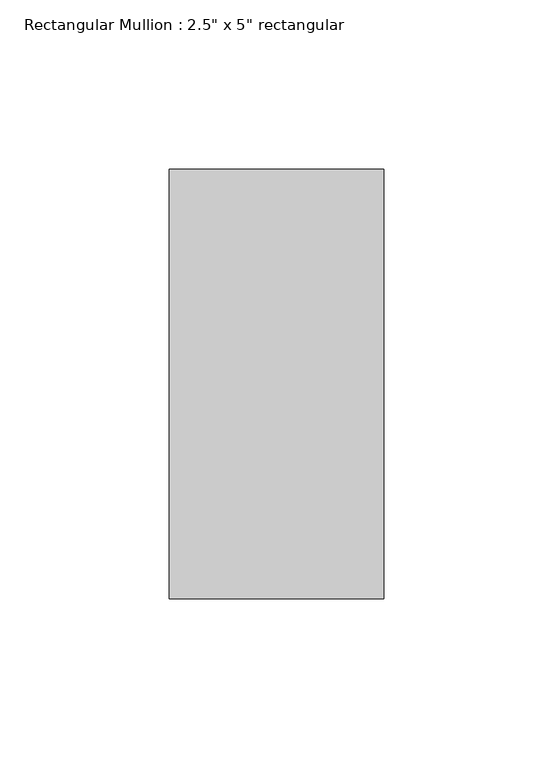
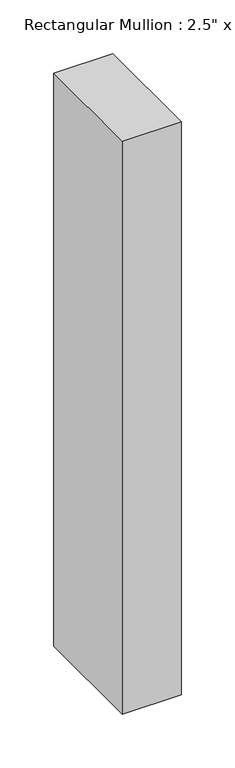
"""IFC4 building model written with IfcOpenShell, lengths in millimetres: member geometry."""

import ifcopenshell
import ifcopenshell.guid

model = None  # the IFC model being written
_history = None  # IfcOwnerHistory: only IFC2X3 demands one
_inside = {}  # id of a spatial element -> (the spatial element, [elements in it])
_under = {}  # id of a project, library or spatial element -> (it, [spatial elements below it])
_declared = {}  # id of a project -> (the project, [libraries it declares])
_typed = {}  # id of a type object -> (the type object, [elements of that type])
_made_of = {}  # id of a material, layer set ... -> (it, [elements and type objects made of it])


def new_model(schema):
    """Start an empty IFC model of exactly this schema.

    Asked for "IFC4X3", IfcOpenShell would pick the latest addendum, in which some entities
    have other attributes; the version numbers below select the first issue.
    IFC2X3 requires an IfcOwnerHistory on every rooted entity: one is made here for all.
    """
    global model, _history
    if schema == "IFC4X3":
        model = ifcopenshell.file(schema_version=(4, 3, 0, 0))
    else:
        model = ifcopenshell.file(schema=schema)
    _inside.clear()
    _under.clear()
    _declared.clear()
    _typed.clear()
    _made_of.clear()
    _history = None
    if model.schema == "IFC2X3":
        org = make("IfcOrganization", Name="unknown")
        user = make(
            "IfcPersonAndOrganization",
            ThePerson=make("IfcPerson", FamilyName="unknown"),
            TheOrganization=org,
        )
        app = make(
            "IfcApplication",
            ApplicationDeveloper=org,
            Version="unknown",
            ApplicationFullName="unknown",
            ApplicationIdentifier="unknown",
        )
        _history = make(
            "IfcOwnerHistory",
            OwningUser=user,
            OwningApplication=app,
            ChangeAction="ADDED",
            CreationDate=0,
        )
    return model


def make(cls, **values):
    """One entity of the class cls with the attributes given. An attribute that is None is left unset."""
    return model.create_entity(
        cls, **{name: value for name, value in values.items() if value is not None}
    )


def rooted(cls, **values):
    """An entity with a GlobalId (a new one), such as an element, a storey or a relation."""
    return make(cls, GlobalId=ifcopenshell.guid.new(), OwnerHistory=_history, **values)


def si_unit(unit_type, name, prefix=None):
    """IfcSIUnit, for example si_unit("LENGTHUNIT", "METRE", prefix="MILLI")."""
    return make("IfcSIUnit", UnitType=unit_type, Prefix=prefix, Name=name)


def assignment(units):
    """IfcUnitAssignment: the units of a project."""
    return None if units is None else make("IfcUnitAssignment", Units=units)


def point(xyz):
    """IfcCartesianPoint."""
    return None if xyz is None else make("IfcCartesianPoint", Coordinates=xyz)


def direction(xyz):
    """IfcDirection."""
    return None if xyz is None else make("IfcDirection", DirectionRatios=xyz)


def frame(location, z_axis=None, x_axis=None):
    """IfcAxis2Placement3D, a coordinate frame: its origin and axes. An axis left out is left unset."""
    return make(
        "IfcAxis2Placement3D",
        Location=point(location),
        Axis=direction(z_axis),
        RefDirection=direction(x_axis),
    )


def origin():
    """The frame at (0, 0, 0) with its axes left unset."""
    return frame((0.0, 0.0, 0.0))


def place(relative_to, where):
    """IfcLocalPlacement: puts the frame where relative to a parent placement (None: the world)."""
    return make(
        "IfcLocalPlacement", PlacementRelTo=relative_to, RelativePlacement=where
    )


def context(
    kind, dimensions, precision=None, world=None, true_north=None, identifier=None
):
    """IfcGeometricRepresentationContext, for example the 3D "Model" context."""
    return make(
        "IfcGeometricRepresentationContext",
        ContextIdentifier=identifier,
        ContextType=kind,
        CoordinateSpaceDimension=dimensions,
        Precision=precision,
        WorldCoordinateSystem=world,
        TrueNorth=true_north,
    )


def project(units=None, contexts=None):
    """IfcProject with its units and contexts."""
    return rooted(
        "IfcProject",
        Name="project",
        RepresentationContexts=contexts,
        UnitsInContext=assignment(units),
    )


def spatial(cls, under=None, at=None, **own):
    """A site, building, storey or space (cls), placed at a placement, below another one or the project."""
    s = rooted(cls, ObjectPlacement=at, **own)
    if under is not None:
        _under.setdefault(under.id(), (under, []))[1].append(s)
    return s


def polyline(points):
    """IfcPolyline through the points."""
    return make("IfcPolyline", Points=[point(p) for p in points])


def outline(outer, holes=None, kind="AREA"):
    """IfcArbitraryClosedProfileDef: a profile drawn as a closed curve; with holes, ...WithVoids."""
    if holes is None:
        return make("IfcArbitraryClosedProfileDef", ProfileType=kind, OuterCurve=outer)
    return make(
        "IfcArbitraryProfileDefWithVoids",
        ProfileType=kind,
        OuterCurve=outer,
        InnerCurves=holes,
    )


def extrude(swept, where, along, depth):
    """IfcExtrudedAreaSolid: the profile swept, set in the frame where, extruded along a direction by depth."""
    return make(
        "IfcExtrudedAreaSolid",
        SweptArea=swept,
        Position=where,
        ExtrudedDirection=direction(along),
        Depth=depth,
    )


def shape(context_of_items, identifier, shape_type, items):
    """IfcShapeRepresentation: the items that make up one representation, for example the "Body"."""
    return make(
        "IfcShapeRepresentation",
        ContextOfItems=context_of_items,
        RepresentationIdentifier=identifier,
        RepresentationType=shape_type,
        Items=items,
    )


def source(mapping_origin, context_of_items, identifier, shape_type, items):
    """IfcRepresentationMap: a shape defined once, which mapped items show again and again."""
    return make(
        "IfcRepresentationMap",
        MappingOrigin=mapping_origin,
        MappedRepresentation=shape(context_of_items, identifier, shape_type, items),
    )


def transform(
    local_origin,
    x_axis=None,
    y_axis=None,
    z_axis=None,
    scale=None,
    scale2=None,
    scale3=None,
    uniform=True,
):
    """IfcCartesianTransformationOperator3D, or its non-uniform kind. x_axis, y_axis, z_axis: its Axis1, 2, 3."""
    if uniform:
        return make(
            "IfcCartesianTransformationOperator3D",
            Axis1=direction(x_axis),
            Axis2=direction(y_axis),
            LocalOrigin=point(local_origin),
            Scale=scale,
            Axis3=direction(z_axis),
        )
    return make(
        "IfcCartesianTransformationOperator3DnonUniform",
        Axis1=direction(x_axis),
        Axis2=direction(y_axis),
        LocalOrigin=point(local_origin),
        Scale=scale,
        Axis3=direction(z_axis),
        Scale2=scale2,
        Scale3=scale3,
    )


def mapped(mapping_source, mapping_target):
    """IfcMappedItem: shows the shape of a source again, moved by a transform."""
    return make(
        "IfcMappedItem", MappingSource=mapping_source, MappingTarget=mapping_target
    )


def made_of(thing, what):
    """Note that an element or type object is made of a material, layer set ...; save() writes the relation."""
    if what is not None:
        _made_of.setdefault(what.id(), (what, []))[1].append(thing)
    return thing


def element(
    cls,
    number,
    at=None,
    inside=None,
    cuts=None,
    type_object=None,
    material=None,
    context=None,
    identifier="Body",
    shape_type=None,
    held_by="IfcProductDefinitionShape",
    body=None,
    shapes=None,
    **own,
):
    """One element of the class cls, such as IfcWall. Its Tag is "e" and its number.

    at: its placement. inside: the storey or other place that contains it. cuts: it is an
    opening in that element (IfcRelVoidsElement). A single representation is given by context,
    identifier, shape_type and body (its items); several are given by shapes. held_by: the class
    of the entity that holds the representations. save() writes the other relations.
    """
    e = rooted(cls, Tag="e%d" % number, ObjectPlacement=at, **own)
    if body is not None:
        shapes = [shape(context, identifier, shape_type, body)]
    if shapes is not None:
        e.Representation = make(held_by, Representations=shapes)
    if inside is not None:
        _inside.setdefault(inside.id(), (inside, []))[1].append(e)
    if cuts is not None:
        rooted(
            "IfcRelVoidsElement", RelatingBuildingElement=cuts, RelatedOpeningElement=e
        )
    if type_object is not None:
        _typed.setdefault(type_object.id(), (type_object, []))[1].append(e)
    return made_of(e, material)


def aggregate(whole, parts):
    """IfcRelAggregates: a whole, such as a stair, and the parts it consists of."""
    return rooted("IfcRelAggregates", RelatingObject=whole, RelatedObjects=parts)


def save(model, path):
    """Write the relations noted so far, then the file.

    IfcRelAggregates (storeys below a building ...), IfcRelContainedInSpatialStructure (elements
    in a storey), IfcRelDefinesByType, IfcRelAssociatesMaterial and IfcRelDeclares: one each for
    every whole, place, type object, material and project.
    """
    for whole, parts in _under.values():
        aggregate(whole, parts)
    for where, things in _inside.values():
        rooted(
            "IfcRelContainedInSpatialStructure",
            RelatedElements=things,
            RelatingStructure=where,
        )
    for kind, things in _typed.values():
        rooted("IfcRelDefinesByType", RelatedObjects=things, RelatingType=kind)
    for what, things in _made_of.values():
        rooted("IfcRelAssociatesMaterial", RelatedObjects=things, RelatingMaterial=what)
    for by, libraries in _declared.values():
        rooted("IfcRelDeclares", RelatingContext=by, RelatedDefinitions=libraries)
    model.write(path)


def member_49764616(model_context):
    return source(origin(), model_context, "Body", "SweptSolid", [
        extrude(outline(polyline([(31.75, 63.5), (31.75, -63.5), (-31.75, -63.5), (-31.75, 63.5), (31.75, 63.5)])), frame((0.0, 0.0, -650.875), z_axis=(0.0, 0.0, 1.0), x_axis=(1.0, 0.0, 0.0)), (0.0, 0.0, 1.0), 650.875),
    ])


if __name__ == "__main__":
    model = new_model("IFC4")
    model_context = context("Model", 3, world=origin())
    ifc_project = project(units=[si_unit("LENGTHUNIT", "METRE", prefix="MILLI")], contexts=[model_context])
    site = spatial("IfcSite", under=ifc_project)
    building = spatial("IfcBuilding", under=site)
    placement = place(None, origin())
    member_shape = member_49764616(model_context)
    element("IfcMember", 1, ObjectType="Rectangular Mullion : 2.5\" x 5\" rectangular", at=placement, inside=building, context=model_context, shape_type="MappedRepresentation", body=[
        mapped(member_shape, transform((0.0, 0.0, 0.0), x_axis=(1.0, 0.0, 0.0), y_axis=(0.0, 1.0, 0.0), z_axis=(0.0, 0.0, 1.0))),
    ])
    save(model, "model.ifc")
